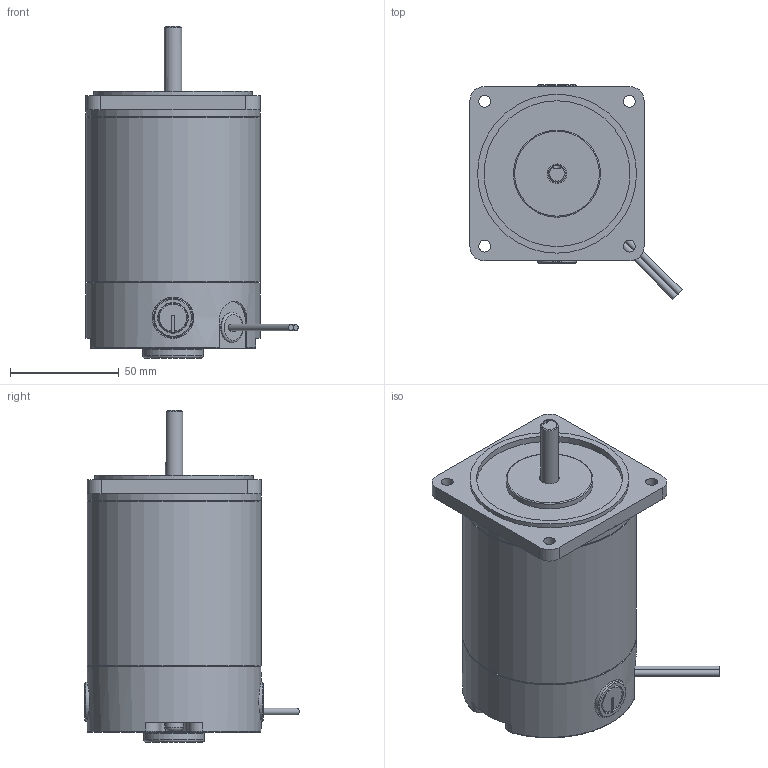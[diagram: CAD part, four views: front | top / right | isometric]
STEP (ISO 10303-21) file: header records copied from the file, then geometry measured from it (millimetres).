
FILE_DESCRIPTION((''),'2;1');
FILE_NAME('C:\Documents and Settings\ycw1227\바탕 화면\S8D25-ㅁK.stp','2013-06-04T08:10:02',('ycw1227'),(''),'Autodesk Inventor 2011','Autodesk Inventor 2011','');
FILE_SCHEMA(('AUTOMOTIVE_DESIGN { 1 0 10303 214 1 1 1 1 }'));
Length unit declared in the file: millimetre
Products named in the file (1): 부품8
Bounding box: 97.45 x 98.45 x 152.5 mm (x, y, z)
Volume: 594410.1 mm3; surface area: 51599.9 mm2
Topology: 1 solids, 3 shells, 178 faces, 425 edges, 276 vertices
Faces by surface type: plane 101, cylinder 47, cone 15, torus 15
Full cylindrical faces by diameter (mm): 3 x2, 5 x2, 5.5 x4, 8 x1, 8.5 x2, 9 x2, 13.5 x2, 14 x3, 18 x2, 19 x2, 28 x1, 40 x1, 67 x1, 73 x1, 80 x3
Entity records: 5223 total; most frequent: CARTESIAN_POINT 1062, DIRECTION 844, ORIENTED_EDGE 764, EDGE_CURVE 382, AXIS2_PLACEMENT_3D 330, VERTEX_POINT 270, EDGE_LOOP 247, VECTOR 184
